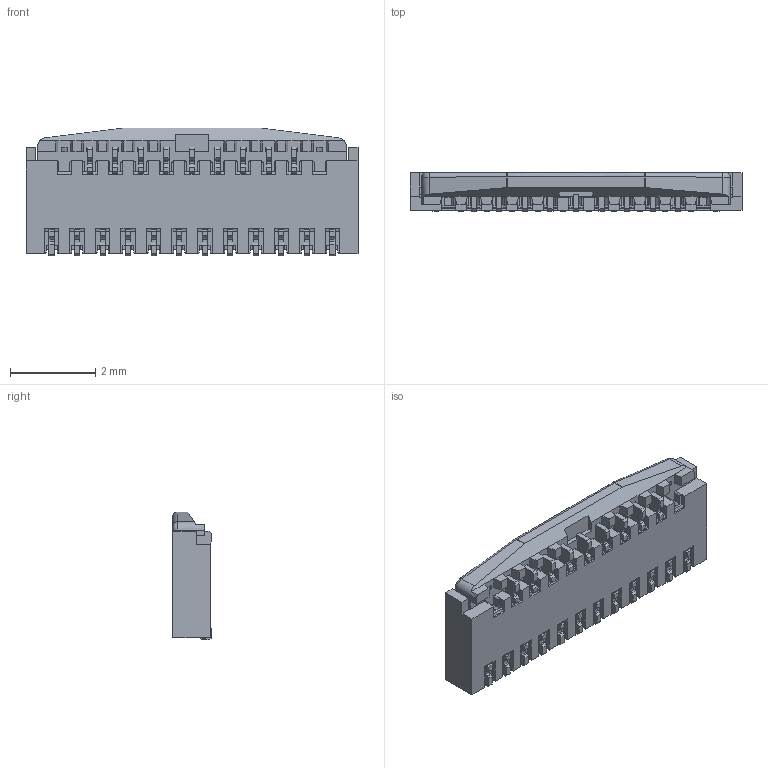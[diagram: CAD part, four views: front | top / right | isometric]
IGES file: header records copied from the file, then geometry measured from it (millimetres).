
Start section: SolidWorks IGES file using analytic representation for surfaces
Global section: file name: C:\3dwork\MINIFLEX3-BFN LK TYPE(中間ファイル作成用ACT CLOSE)_takei\20599-019ExC ASS'Y ACT CLOSE IGES R0 Garmin.IGS; native system: SolidWorks 2011; preprocessor: SolidWorks 2011; author: kaihatsu-3dcad-9; date: 130822.112940; units: millimetre
Bounding box: 7.8 x 0.9 x 3 mm (x, y, z)
Surface area: 96.7 mm2 (no closed solid volume)
Topology: 0 solids, 0 shells, 1983 faces, 12407 edges, 12403 vertices
Faces by surface type: bspline 1719, revolution 264
